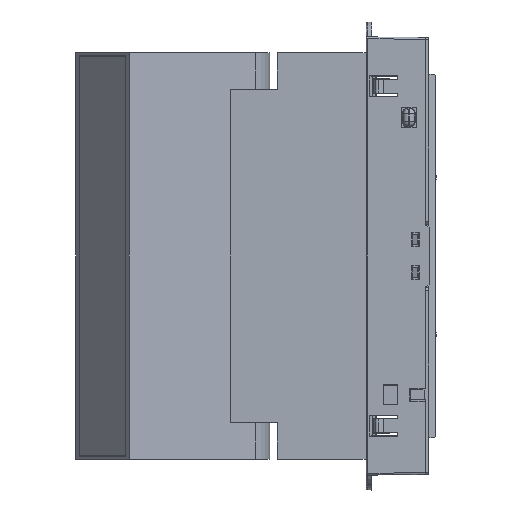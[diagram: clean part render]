
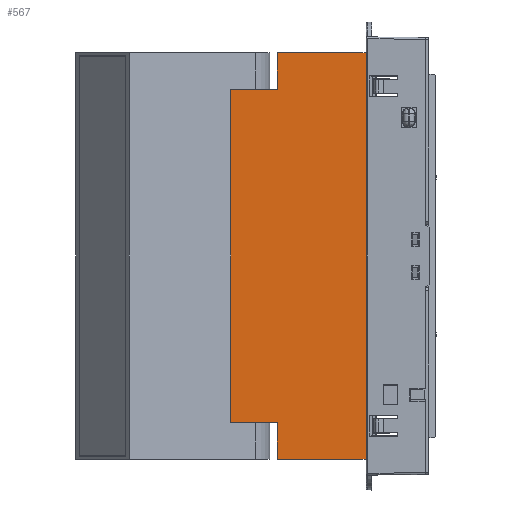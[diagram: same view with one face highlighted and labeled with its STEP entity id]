
A CAD part, left-side view. The second image highlights one B-rep face of the part: STEP entity #567.
In plain terms, the highlighted planar face has unit normal (-1, 0, 0).
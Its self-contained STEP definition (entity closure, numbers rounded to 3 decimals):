
#55=DIRECTION('',(0.,-1.,0.));
#56=VECTOR('',#55,24.);
#57=CARTESIAN_POINT('',(-11.,5.5,-55.));
#58=LINE('',#57,#56);
#101=DIRECTION('',(0.,0.,1.));
#102=VECTOR('',#101,110.);
#103=CARTESIAN_POINT('',(-11.,-18.5,-55.));
#104=LINE('',#103,#102);
#121=DIRECTION('',(0.,-1.,0.));
#122=VECTOR('',#121,13.);
#123=CARTESIAN_POINT('',(-11.,18.5,-45.));
#124=LINE('',#123,#122);
#125=DIRECTION('',(0.,0.,1.));
#126=VECTOR('',#125,90.);
#127=CARTESIAN_POINT('',(-11.,18.5,-45.));
#128=LINE('',#127,#126);
#129=DIRECTION('',(0.,-1.,0.));
#130=VECTOR('',#129,13.);
#131=CARTESIAN_POINT('',(-11.,18.5,45.));
#132=LINE('',#131,#130);
#133=DIRECTION('',(0.,0.,-1.));
#134=VECTOR('',#133,10.);
#135=CARTESIAN_POINT('',(-11.,5.5,55.));
#136=LINE('',#135,#134);
#137=DIRECTION('',(0.,0.,1.));
#138=VECTOR('',#137,10.);
#139=CARTESIAN_POINT('',(-11.,5.5,-55.));
#140=LINE('',#139,#138);
#181=DIRECTION('',(0.,-1.,0.));
#182=VECTOR('',#181,24.);
#183=CARTESIAN_POINT('',(-11.,5.5,55.));
#184=LINE('',#183,#182);
#355=CARTESIAN_POINT('',(-11.,-18.5,-55.));
#357=VERTEX_POINT('',#355);
#359=CARTESIAN_POINT('',(-11.,-18.5,55.));
#361=VERTEX_POINT('',#359);
#364=CARTESIAN_POINT('',(-11.,5.5,55.));
#366=VERTEX_POINT('',#364);
#371=CARTESIAN_POINT('',(-11.,18.5,45.));
#372=VERTEX_POINT('',#371);
#373=CARTESIAN_POINT('',(-11.,5.5,45.));
#374=VERTEX_POINT('',#373);
#375=CARTESIAN_POINT('',(-11.,5.5,-45.));
#377=VERTEX_POINT('',#375);
#380=CARTESIAN_POINT('',(-11.,5.5,-55.));
#382=VERTEX_POINT('',#380);
#385=CARTESIAN_POINT('',(-11.,18.5,-45.));
#386=VERTEX_POINT('',#385);
#548=CARTESIAN_POINT('',(-11.,18.5,-55.));
#549=DIRECTION('',(-1.,0.,0.));
#550=DIRECTION('',(0.,-1.,0.));
#551=AXIS2_PLACEMENT_3D('',#548,#549,#550);
#552=PLANE('',#551);
#553=ORIENTED_EDGE('',*,*,#492,.F.);
#555=ORIENTED_EDGE('',*,*,#554,.T.);
#557=ORIENTED_EDGE('',*,*,#556,.T.);
#559=ORIENTED_EDGE('',*,*,#558,.F.);
#561=ORIENTED_EDGE('',*,*,#560,.T.);
#562=ORIENTED_EDGE('',*,*,#530,.F.);
#563=ORIENTED_EDGE('',*,*,#458,.F.);
#564=ORIENTED_EDGE('',*,*,#474,.T.);
#565=EDGE_LOOP('',(#553,#555,#557,#559,#561,#562,#563,#564));
#566=FACE_OUTER_BOUND('',#565,.F.);
#458=EDGE_CURVE('',#382,#357,#58,.T.);
#474=EDGE_CURVE('',#382,#377,#140,.T.);
#492=EDGE_CURVE('',#386,#377,#124,.T.);
#530=EDGE_CURVE('',#357,#361,#104,.T.);
#554=EDGE_CURVE('',#386,#372,#128,.T.);
#556=EDGE_CURVE('',#372,#374,#132,.T.);
#558=EDGE_CURVE('',#366,#374,#136,.T.);
#560=EDGE_CURVE('',#366,#361,#184,.T.);
#567=ADVANCED_FACE('',(#566),#552,.T.);
